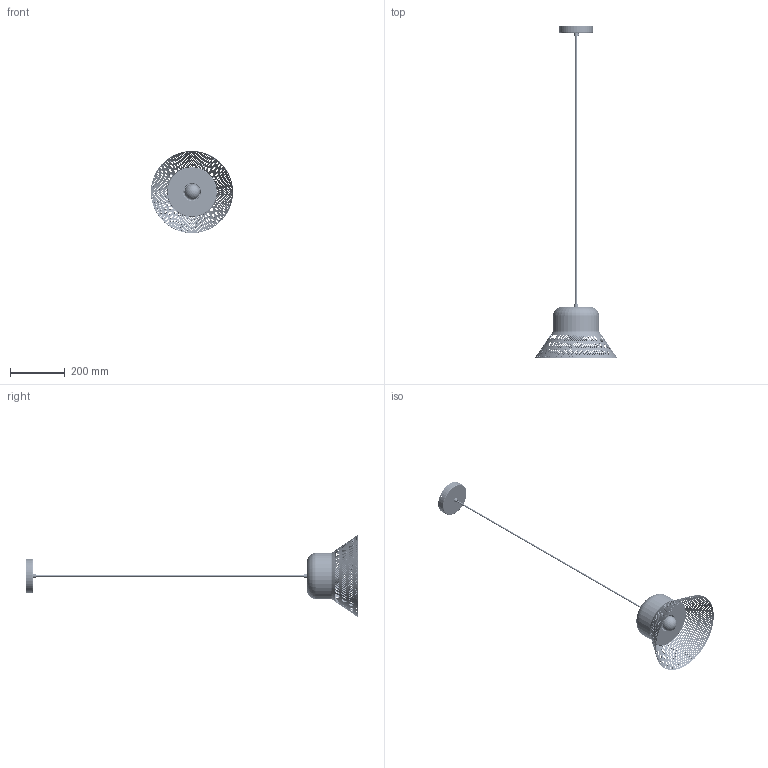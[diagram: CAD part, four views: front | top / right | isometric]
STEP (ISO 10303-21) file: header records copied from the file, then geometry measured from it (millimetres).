
FILE_DESCRIPTION (( 'STEP AP203' ), '1' );
FILE_NAME ('CH.001.STEP', '2026-03-02T14:08:45', ( '' ), ( '' ), 'SwSTEP 2.0', 'SolidWorks 2013', '' );
FILE_SCHEMA (( 'CONFIG_CONTROL_DESIGN' ));
Products named in the file (11): E27 LED 8W; E-26; EM001_SURO Ø168x102; GI338_Aro Ø95 fixació tapa; AR016_FLORÓ ø120x25; GI341_Tapa part electrica Ø95 E27; KO014_CABLE TRANSP.1000mm; MB002_Pantalla cònica perf.Ø300x95xØ170; CH.001; DIN7991 M3x6; EK44
Assembly tree (13 placements, depth 2):
  CH.001
    EM001_SURO Ø168x102
    GI338_Aro Ø95 fixació tapa
    KO014_CABLE TRANSP.1000mm
    MB002_Pantalla cònica perf.Ø300x95xØ170
    GI341_Tapa part electrica Ø95 E27
    EK44  x2
    E-26
    E27 LED 8W
    DIN7991 M3x6  x3
    AR016_FLORÓ ø120x25
Bounding box: 299.95 x 1210.13 x 299.95 mm (x, y, z)
Volume: 2006706.6 mm3; surface area: 361301.7 mm2
Topology: 13 solids, 13 shells, 3701 faces, 10953 edges, 7263 vertices
Faces by surface type: bspline 3424, cylinder 96, plane 73, cone 56, torus 46, sphere 6
Entity records: 507164 total; most frequent: CARTESIAN_POINT 432054, ORIENTED_EDGE 21624, EDGE_CURVE 10812, B_SPLINE_CURVE_WITH_KNOTS 10324, VERTEX_POINT 7175, EDGE_LOOP 7085, ADVANCED_FACE 3643, FACE_OUTER_BOUND 3643
